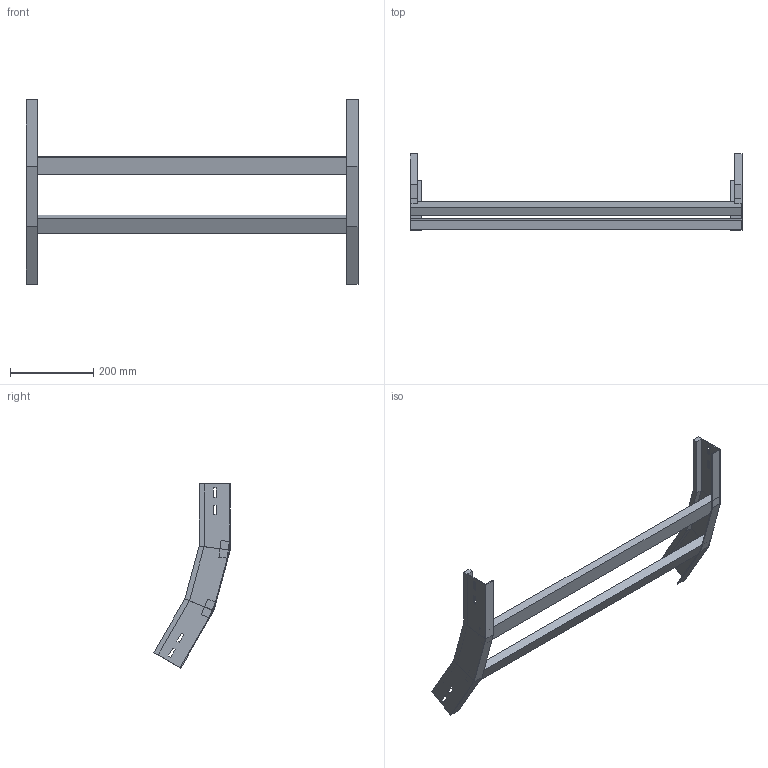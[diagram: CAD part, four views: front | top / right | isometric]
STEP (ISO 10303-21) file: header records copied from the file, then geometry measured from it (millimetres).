
FILE_DESCRIPTION (( 'STEP AP214' ), '1' );
FILE_NAME ('A2X32B5C800XX.step', '2025-03-20T10:02:31', ( '' ), ( '' ), 'SwSTEP 2.0', 'SolidWorks 2023', '' );
FILE_SCHEMA (( 'AUTOMOTIVE_DESIGN' ));
Length unit declared in the file: millimetre
Products named in the file (3): LONGH.SALITA_30°_H75_R500; TRAVERSINO_800; A2X32B5C800XX
Assembly tree (4 placements, depth 2):
  A2X32B5C800XX
    LONGH.SALITA_30°_H75_R500  x2
    TRAVERSINO_800  x2
Bounding box: 800 x 183.88 x 443.86 mm (x, y, z)
Volume: 1635919.5 mm3; surface area: 409472.3 mm2
Topology: 4 solids, 4 shells, 96 faces, 232 edges, 144 vertices
Faces by surface type: plane 96
Entity records: 1472 total; most frequent: CARTESIAN_POINT 243, ORIENTED_EDGE 232, DIRECTION 226, LINE 116, VECTOR 116, EDGE_CURVE 116, VERTEX_POINT 72, EDGE_LOOP 56
